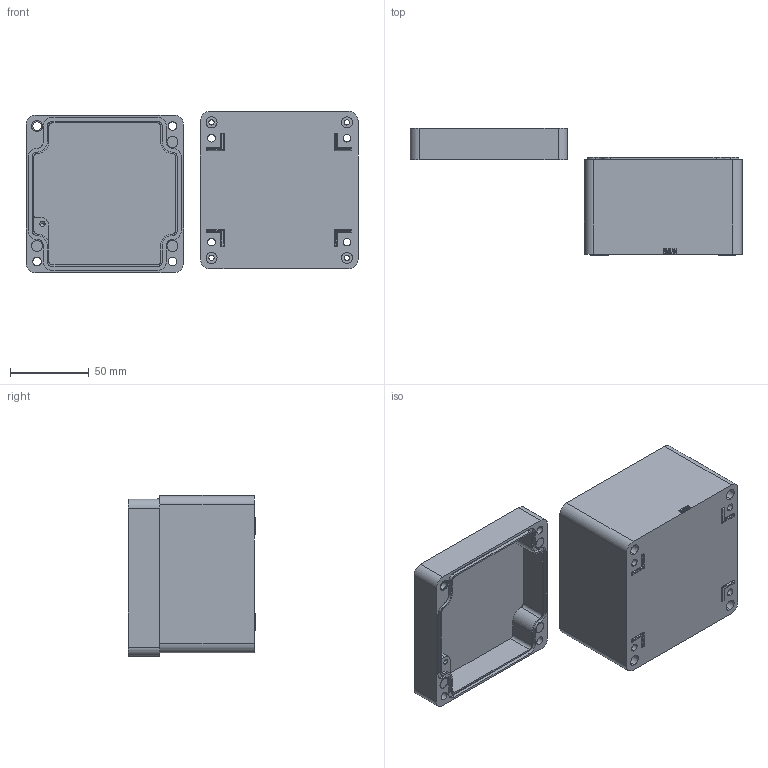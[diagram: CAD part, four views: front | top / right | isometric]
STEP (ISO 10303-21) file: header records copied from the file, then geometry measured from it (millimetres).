
FILE_DESCRIPTION (( 'STEP AP203' ), '1' );
FILE_NAME ('ZX-AL-101008_装配体.STEP', '2022-01-24T08:02:25', ( '微软用户' ), ( '微软中国' ), 'SwSTEP 2.0', 'SolidWorks 2020', '' );
FILE_SCHEMA (( 'CONFIG_CONTROL_DESIGN' ));
Length unit declared in the file: millimetre
Products named in the file (3): ZX-AL-101008_蚾饜极; ZX-AL-101008_奻; ZX-AL-101008_狟
Assembly tree (2 placements, depth 2):
  ZX-AL-101008_蚾饜极
    ZX-AL-101008_狟
    ZX-AL-101008_奻
Bounding box: 210.78 x 81.08 x 102.34 mm (x, y, z)
Volume: 210607.6 mm3; surface area: 111304.6 mm2
Topology: 2 solids, 2 shells, 651 faces, 1754 edges, 1143 vertices
Faces by surface type: plane 326, cylinder 168, bspline 123, cone 34
Entity records: 26165 total; most frequent: CARTESIAN_POINT 10190, ORIENTED_EDGE 3480, DIRECTION 2844, EDGE_CURVE 1740, LINE 1162, VECTOR 1162, VERTEX_POINT 1143, AXIS2_PLACEMENT_3D 841
